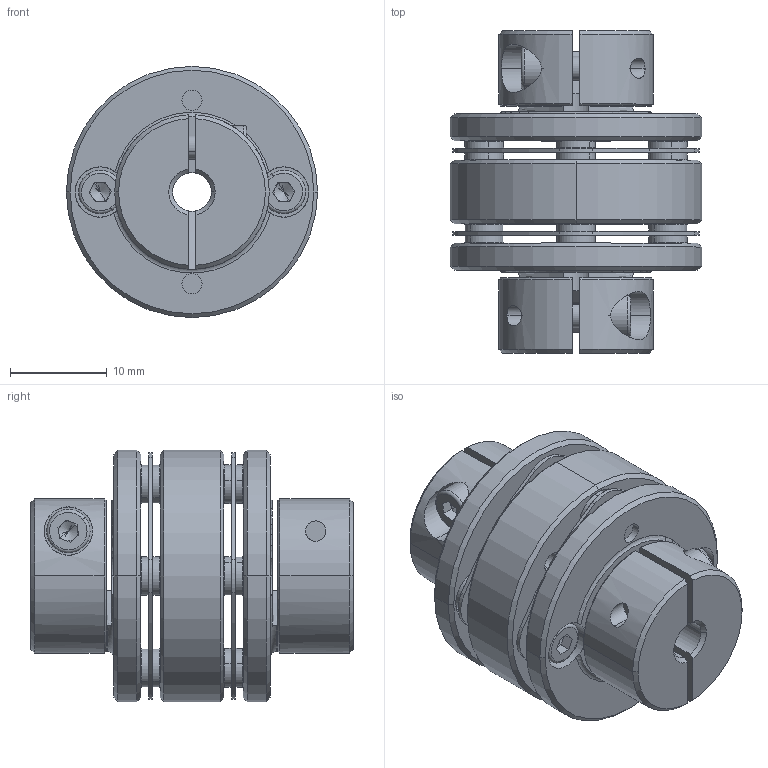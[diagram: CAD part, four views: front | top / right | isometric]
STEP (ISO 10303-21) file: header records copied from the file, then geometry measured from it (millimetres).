
FILE_DESCRIPTION (( 'STEP AP203' ), '1' );
FILE_NAME ('LE2-B-D26L35-4-4.STEP', '2021-11-01T05:41:07', ( '' ), ( '' ), 'SwSTEP 2.0', 'SolidWorks 2018', '' );
FILE_SCHEMA (( 'CONFIG_CONTROL_DESIGN' ));
Length unit declared in the file: millimetre
Products named in the file (1): LE2-B-D26L35-4-4
Bounding box: 26 x 33.4 x 26 mm (x, y, z)
Volume: 8136.1 mm3; surface area: 8448.3 mm2
Topology: 1 solids, 19 shells, 672 faces, 1560 edges, 938 vertices
Faces by surface type: cylinder 228, plane 218, cone 202, torus 24
Entity records: 19399 total; most frequent: DIRECTION 3628, CARTESIAN_POINT 3495, ORIENTED_EDGE 3080, EDGE_CURVE 1540, AXIS2_PLACEMENT_3D 1467, VERTEX_POINT 938, CIRCLE 794, EDGE_LOOP 782
